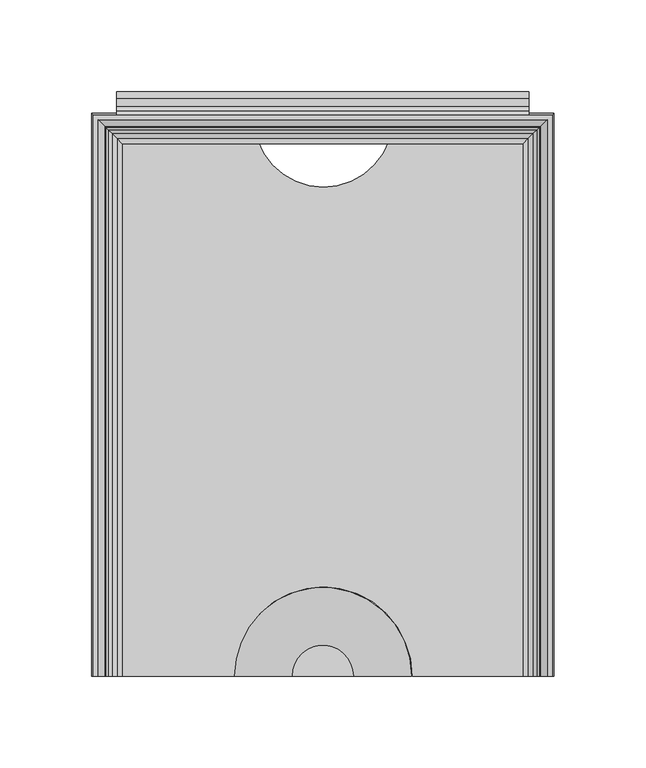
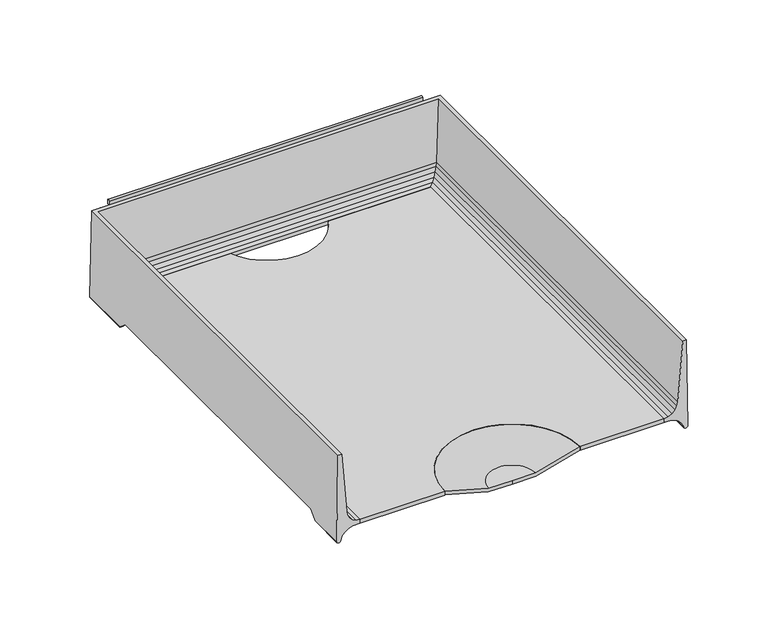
"""IFC4 building model written with IfcOpenShell, lengths in millimetres: furniture geometry."""

from ifc_helpers import new_model, si_unit, point, frame, frame_2d, origin, place, context, project, spatial, polyline, circle_curve, ellipse_curve, trimmed, segment, composite_curve, outline, extrude, source, transform, mapped, element, save
from ifc_brep_helpers import plane_surface, cylinder_surface, revolved_surface, advanced_brep


def furniture_df6c216b(model_context):
    return source(origin(), model_context, "Body", "SolidModel", [
        advanced_brep(
        [(126.0820502, -154.0206082, 683.9007489), (125.1325529, -154.0206082, 749.3001914), (122.4547921, -154.0206082, 749.3001914), (118.8379747, -154.0206082, 704.5131003), (118.4123648, -154.0206082, 701.7796052), (117.0774354, -154.0206082, 699.0785664), (114.9656457, -154.0206082, 696.9296015), (112.28832, -154.0206082, 695.5477261), (109.3133381, -154.0206082, 695.0712052), (109.3133381, -154.0206082, 692.2490971), (114.5666739, -154.0206082, 692.0560987), (117.605351, -154.0206082, 690.9997218), (120.2416, -154.0206082, 689.1558822), (122.2762142, -154.0206082, 686.6639079), (123.1625518, -154.0206082, 683.6206655), (126.0820502, -127.6379698, 683.9007489), (126.0026181, -121.5231874, 689.371872), (126.0026181, 109.0611937, 689.371872), (126.0820502, 115.1759816, 683.9007489), (126.0820502, 153.036442, 683.9007489), (125.1325529, 152.0869447, 749.3001914), (-125.1325529, 152.0869447, 749.3001914), (-125.1325529, -154.0206082, 749.3001914), (-122.4547921, -154.0206082, 749.3001914), (-122.4547921, 149.4091839, 749.3001914), (122.4547921, 149.4091839, 749.3001914), (118.8379747, 145.7923665, 704.5131003), (118.4123648, 145.3667566, 701.7796052), (117.0774354, 144.0318272, 699.0785664), (114.9656457, 141.9200375, 696.9296015), (112.28832, 139.2427118, 695.5477261), (109.3133381, 136.2677299, 695.0712052), (109.3133381, 136.2677299, 692.2490971), (114.5666739, 141.5210656, 692.0560987), (117.605351, 144.5597428, 690.9997218), (120.2416, 147.1959918, 689.1558822), (120.2416, 109.3025941, 689.1558822), (119.9327864, 109.0611937, 689.371872), (119.9327864, -121.5231874, 689.371872), (120.2416, -121.7645876, 689.1558822), (122.2762142, -124.5497344, 686.6639079), (122.2762142, 149.230606, 686.6639079), (122.2762142, 112.0877435, 686.6639079), (123.1625518, -127.9510041, 683.6206655), (123.1625518, 150.1169436, 683.6206655), (123.1625518, 115.4890162, 683.6206655), (-126.0820502, 153.036442, 683.9007489), (-118.8379747, 145.7923665, 704.5131003), (-118.4123648, 145.3667566, 701.7796052), (-117.0774354, 144.0318272, 699.0785664), (-114.9656457, 141.9200375, 696.9296015), (-112.28832, 139.2427118, 695.5477261), (-109.3133381, 136.2677299, 695.0712052), (-109.3133381, 136.2677299, 692.2490971), (-114.5666739, 141.5210656, 692.0560987), (-117.605351, 144.5597428, 690.9997218), (-120.2416, 147.1959918, 689.1558822), (-122.2762142, 149.230606, 686.6639079), (-123.1625518, 150.1169436, 683.6206655), (-126.0820502, -154.0206082, 683.9007489), (-123.1625518, -154.0206082, 683.6206655), (-122.2762142, -154.0206082, 686.6639079), (-120.2416, -154.0206082, 689.1558822), (-117.605351, -154.0206082, 690.9997218), (-114.5666739, -154.0206082, 692.0560987), (-109.3133381, -154.0206082, 692.2490971), (-109.3133381, -154.0206082, 695.0712052), (-112.28832, -154.0206082, 695.5477261), (-114.9656457, -154.0206082, 696.9296015), (-117.0774354, -154.0206082, 699.0785664), (-118.4123648, -154.0206082, 701.7796052), (-118.8379747, -154.0206082, 704.5131003), (-126.0820502, 115.1759816, 683.9007489), (-126.0026181, 109.0611937, 689.371872), (-126.0026181, -121.5231874, 689.371872), (-126.0820502, -127.6379698, 683.9007489), (-120.2416, -121.7645876, 689.1558822), (-119.9327864, -121.5231874, 689.371872), (-119.9327864, 109.0611937, 689.371872), (-120.2416, 109.3025941, 689.1558822), (-122.2762142, 112.0877435, 686.6639079), (-122.2762142, -124.5497344, 686.6639079), (-123.1625518, 115.4890162, 683.6206655), (-123.1625518, -127.9510041, 683.6206655)],
        [
            (0, 1),
            (1, 2),
            (2, 3),
            (3, 4),
            (4, 5),
            (5, 6),
            (6, 7),
            (7, 8),
            (8, 9),
            (9, 10),
            (10, 11),
            (11, 12),
            (12, 13),
            (13, 14),
            (14, 0, circle_curve(frame((124.5859452, -154.0206082, 684.1396685), z_axis=(0.0, -1.0, 0.0), x_axis=(-1.0, 0.0, 0.0)), 1.515062)),
            (0, 15),
            (15, 16),
            (16, 17),
            (17, 18),
            (18, 19),
            (19, 20),
            (20, 1),
            (20, 21),
            (21, 22),
            (22, 23),
            (23, 24),
            (24, 25),
            (25, 2),
            (25, 26),
            (26, 3),
            (26, 27),
            (27, 4),
            (27, 28),
            (28, 5),
            (28, 29),
            (29, 6),
            (29, 30),
            (30, 7),
            (30, 31),
            (31, 8),
            (31, 32),
            (32, 9),
            (32, 33),
            (33, 10),
            (33, 34),
            (34, 11),
            (34, 35),
            (35, 36),
            (36, 37),
            (37, 38),
            (38, 39),
            (39, 12),
            (39, 40),
            (40, 13),
            (35, 41),
            (41, 42),
            (42, 36),
            (40, 43),
            (43, 14),
            (41, 44),
            (44, 45),
            (45, 42),
            (43, 15, ellipse_curve(frame((124.5859452, -127.3709422, 684.1396685), z_axis=(0.0, -0.6667949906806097, 0.7452411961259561), x_axis=(0.0, -0.7452411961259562, -0.6667949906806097)), 2.2721556, 1.515062)),
            (44, 19, ellipse_curve(frame((124.5859452, 151.540337, 684.1396685), z_axis=(0.7071067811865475, -0.7071067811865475, 0.0), x_axis=(-0.7071067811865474, -0.7071067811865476, 0.0)), 2.1426212, 1.515062)),
            (18, 45, ellipse_curve(frame((124.5859452, 114.9089538, 684.1396685), z_axis=(0.0, 0.6667946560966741, 0.7452414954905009), x_axis=(0.0, -0.7452414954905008, 0.6667946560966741)), 2.2721567, 1.515062)),
            (19, 46),
            (46, 21),
            (24, 47),
            (47, 26),
            (47, 48),
            (48, 27),
            (48, 49),
            (49, 28),
            (49, 50),
            (50, 29),
            (50, 51),
            (51, 30),
            (51, 52),
            (52, 31),
            (52, 53),
            (53, 32),
            (53, 54),
            (54, 33),
            (54, 55),
            (55, 34),
            (55, 56),
            (56, 35),
            (56, 57),
            (57, 41),
            (57, 58),
            (58, 44),
            (58, 46, ellipse_curve(frame((-124.5859452, 151.540337, 684.1396685), z_axis=(0.7071067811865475, 0.7071067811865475, 0.0), x_axis=(0.7071067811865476, -0.7071067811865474, 0.0)), 2.1426212, 1.515062)),
            (22, 59),
            (59, 60, circle_curve(frame((-124.5859452, -154.0206082, 684.1396685), z_axis=(0.0, -1.0, 0.0), x_axis=(1.0, 0.0, 0.0)), 1.515062)),
            (60, 61),
            (61, 62),
            (62, 63),
            (63, 64),
            (64, 65),
            (65, 66),
            (66, 67),
            (67, 68),
            (68, 69),
            (69, 70),
            (70, 71),
            (71, 23),
            (46, 72),
            (72, 73),
            (73, 74),
            (74, 75),
            (75, 59),
            (71, 47),
            (70, 48),
            (69, 49),
            (68, 50),
            (67, 51),
            (66, 52),
            (65, 53),
            (64, 54),
            (63, 55),
            (62, 76),
            (76, 77),
            (77, 78),
            (78, 79),
            (79, 56),
            (79, 80),
            (80, 57),
            (61, 81),
            (81, 76),
            (80, 82),
            (82, 58),
            (60, 83),
            (83, 81),
            (82, 72, ellipse_curve(frame((-124.5859452, 114.9089538, 684.1396685), z_axis=(0.0, 0.6667946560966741, 0.7452414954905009), x_axis=(0.0, 0.7452414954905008, -0.6667946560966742)), 2.2721567, 1.515062)),
            (75, 83, ellipse_curve(frame((-124.5859452, -127.3709422, 684.1396685), z_axis=(0.0, -0.6667949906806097, 0.7452411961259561), x_axis=(0.0, 0.745241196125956, 0.6667949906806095)), 2.2721556, 1.515062)),
            (38, 16),
            (74, 77),
            (37, 17),
            (73, 78),
        ],
        [
            plane_surface(frame((127.0, -154.0206082, 682.625), z_axis=(0.0, -1.0, 0.0), x_axis=(0.0, 0.0, 1.0))),
            plane_surface(frame((126.0820502, -154.0206082, 683.9007489), z_axis=(0.9998946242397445, 0.0, 0.01451690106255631), x_axis=(0.0, 1.0, 0.0))),
            plane_surface(frame((125.1325529, -154.0206082, 749.3001914), z_axis=(0.0, 0.0, 1.0), x_axis=(0.0, 1.0, 0.0))),
            plane_surface(frame((122.4547921, -154.0206082, 749.3001914), z_axis=(-0.9967551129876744, 0.0, 0.08049375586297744), x_axis=(0.0, 1.0, 0.0))),
            plane_surface(frame((118.8379747, -154.0206082, 704.5131003), z_axis=(-0.9880945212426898, 0.0, 0.15384803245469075), x_axis=(0.0, 1.0, 0.0))),
            plane_surface(frame((118.4123648, -154.0206082, 701.7796052), z_axis=(-0.8964873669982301, 0.0, 0.44306929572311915), x_axis=(0.0, 1.0, 0.0))),
            plane_surface(frame((117.0774354, -154.0206082, 699.0785664), z_axis=(-0.7132491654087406, 0.0, 0.7009105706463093), x_axis=(0.0, 1.0, 0.0))),
            plane_surface(frame((114.9656457, -154.0206082, 696.9296015), z_axis=(-0.45865074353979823, 0.0, 0.8886166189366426), x_axis=(0.0, 1.0, 0.0))),
            plane_surface(frame((112.28832, -154.0206082, 695.5477261), z_axis=(-0.15816001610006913, 0.0, 0.987413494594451), x_axis=(0.0, 1.0, 0.0))),
            plane_surface(frame((109.3133381, -154.0206082, 695.0712052), z_axis=(-1.0, 0.0, 0.0), x_axis=(0.0, 1.0, 0.0))),
            plane_surface(frame((109.3133381, -154.0206082, 692.2490971), z_axis=(-0.036713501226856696, 0.0, -0.9993258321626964), x_axis=(0.0, 1.0, 0.0))),
            plane_surface(frame((114.5666739, -154.0206082, 692.0560987), z_axis=(-0.3283669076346, 0.0, -0.9445502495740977), x_axis=(0.0, 1.0, 0.0))),
            plane_surface(frame((117.605351, -154.0206082, 690.9997218), z_axis=(-0.5731421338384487, 0.0, -0.819455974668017), x_axis=(0.0, 1.0, 0.0))),
            plane_surface(frame((120.2416, -154.0206082, 689.1558822), z_axis=(-0.77460799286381, 0.0, -0.6324416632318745), x_axis=(0.0, 1.0, 0.0))),
            plane_surface(frame((122.2762142, -154.0206082, 686.6639079), z_axis=(-0.9601080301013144, 0.0, -0.2796293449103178), x_axis=(0.0, 1.0, 0.0))),
            cylinder_surface(frame((124.5859452, -154.0206082, 684.1396685), z_axis=(0.0, -1.0, 0.0), x_axis=(-1.0, 0.0, 0.0)), 1.515062),
            plane_surface(frame((126.0820502, 153.036442, 683.9007489), z_axis=(0.0, 0.9998946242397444, 0.01451690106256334), x_axis=(-1.0, 0.0, 0.0))),
            plane_surface(frame((122.4547921, 149.4091839, 749.3001914), z_axis=(0.0, -0.9967551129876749, 0.08049375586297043), x_axis=(-1.0, 0.0, 0.0))),
            plane_surface(frame((118.8379747, 145.7923665, 704.5131003), z_axis=(0.0, -0.9880945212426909, 0.15384803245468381), x_axis=(-1.0, 0.0, 0.0))),
            plane_surface(frame((118.4123648, 145.3667566, 701.7796052), z_axis=(0.0, -0.8964873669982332, 0.4430692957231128), x_axis=(-1.0, 0.0, 0.0))),
            plane_surface(frame((117.0774354, 144.0318272, 699.0785664), z_axis=(0.0, -0.7132491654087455, 0.7009105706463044), x_axis=(-1.0, 0.0, 0.0))),
            plane_surface(frame((114.9656457, 141.9200375, 696.9296015), z_axis=(0.0, -0.4586507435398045, 0.8886166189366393), x_axis=(-1.0, 0.0, 0.0))),
            plane_surface(frame((112.28832, 139.2427118, 695.5477261), z_axis=(0.0, -0.15816001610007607, 0.9874134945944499), x_axis=(-1.0, 0.0, 0.0))),
            plane_surface(frame((109.3133381, 136.2677299, 695.0712052), z_axis=(0.0, -1.0, 0.0), x_axis=(-1.0, 0.0, 0.0))),
            plane_surface(frame((109.3133381, 136.2677299, 692.2490971), z_axis=(0.0, -0.03671350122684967, -0.9993258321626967), x_axis=(-1.0, 0.0, 0.0))),
            plane_surface(frame((114.5666739, 141.5210656, 692.0560987), z_axis=(0.0, -0.32836690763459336, -0.9445502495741), x_axis=(-1.0, 0.0, 0.0))),
            plane_surface(frame((117.605351, 144.5597428, 690.9997218), z_axis=(0.0, -0.5731421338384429, -0.819455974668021), x_axis=(-1.0, 0.0, 0.0))),
            plane_surface(frame((120.2416, 147.1959918, 689.1558822), z_axis=(0.0, -0.7746079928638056, -0.6324416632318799), x_axis=(-1.0, 0.0, 0.0))),
            plane_surface(frame((122.2762142, 149.230606, 686.6639079), z_axis=(0.0, -0.9601080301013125, -0.27962934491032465), x_axis=(-1.0, 0.0, 0.0))),
            cylinder_surface(frame((127.0, 151.540337, 684.1396685), z_axis=(1.0, 0.0, 0.0), x_axis=(0.0, -1.0, 0.0)), 1.515062),
            plane_surface(frame((-127.0, -154.0206082, 682.625), z_axis=(0.0, -1.0, 0.0), x_axis=(0.0, 0.0, 1.0))),
            plane_surface(frame((-126.0820502, 153.036442, 683.9007489), z_axis=(-0.9998946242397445, 0.0, 0.01451690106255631), x_axis=(0.0, -1.0, 0.0))),
            plane_surface(frame((-122.4547921, 149.4091839, 749.3001914), z_axis=(0.9967551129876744, 0.0, 0.08049375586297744), x_axis=(0.0, -1.0, 0.0))),
            plane_surface(frame((-118.8379747, 145.7923665, 704.5131003), z_axis=(0.9880945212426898, 0.0, 0.15384803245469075), x_axis=(0.0, -1.0, 0.0))),
            plane_surface(frame((-118.4123648, 145.3667566, 701.7796052), z_axis=(0.8964873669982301, 0.0, 0.44306929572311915), x_axis=(0.0, -1.0, 0.0))),
            plane_surface(frame((-117.0774354, 144.0318272, 699.0785664), z_axis=(0.7132491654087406, 0.0, 0.7009105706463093), x_axis=(0.0, -1.0, 0.0))),
            plane_surface(frame((-114.9656457, 141.9200375, 696.9296015), z_axis=(0.45865074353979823, 0.0, 0.8886166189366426), x_axis=(0.0, -1.0, 0.0))),
            plane_surface(frame((-112.28832, 139.2427118, 695.5477261), z_axis=(0.15816001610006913, 0.0, 0.987413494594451), x_axis=(0.0, -1.0, 0.0))),
            plane_surface(frame((-109.3133381, 136.2677299, 695.0712052), z_axis=(1.0, 0.0, 0.0), x_axis=(0.0, -1.0, 0.0))),
            plane_surface(frame((-109.3133381, 136.2677299, 692.2490971), z_axis=(0.036713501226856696, 0.0, -0.9993258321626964), x_axis=(0.0, -1.0, 0.0))),
            plane_surface(frame((-114.5666739, 141.5210656, 692.0560987), z_axis=(0.3283669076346, 0.0, -0.9445502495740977), x_axis=(0.0, -1.0, 0.0))),
            plane_surface(frame((-117.605351, 144.5597428, 690.9997218), z_axis=(0.5731421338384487, 0.0, -0.819455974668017), x_axis=(0.0, -1.0, 0.0))),
            plane_surface(frame((-120.2416, 147.1959918, 689.1558822), z_axis=(0.77460799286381, 0.0, -0.6324416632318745), x_axis=(0.0, -1.0, 0.0))),
            plane_surface(frame((-122.2762142, 149.230606, 686.6639079), z_axis=(0.9601080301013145, 0.0, -0.2796293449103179), x_axis=(0.0, -1.0, 0.0))),
            cylinder_surface(frame((-124.5859452, 153.9543918, 684.1396685), z_axis=(0.0, 1.0, 0.0), x_axis=(1.0, 0.0, 0.0)), 1.515062),
            plane_surface(frame((-127.0, -130.1695728, 681.6356296), z_axis=(0.0, 0.6667949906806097, -0.7452411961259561), x_axis=(1.0, 0.0, 0.0))),
            plane_surface(frame((-127.0, -121.5231874, 689.371872), z_axis=(0.0, 0.0, -1.0), x_axis=(1.0, 0.0, 0.0))),
            plane_surface(frame((-127.0, 109.0611937, 689.371872), z_axis=(0.0, -0.6667946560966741, -0.7452414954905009), x_axis=(1.0, 0.0, 0.0))),
        ],
        [
            (0, [[1, 2, 3, 4, 5, 6, 7, 8, 9, 10, 11, 12, 13, 14, 15]]),
            (1, [[-1, 16, 17, 18, 19, 20, 21, 22]]),
            (2, [[-2, -22, 23, 24, 25, 26, 27, 28]]),
            (3, [[-3, -28, 29, 30]]),
            (4, [[-4, -30, 31, 32]]),
            (5, [[-5, -32, 33, 34]]),
            (6, [[-6, -34, 35, 36]]),
            (7, [[-7, -36, 37, 38]]),
            (8, [[-8, -38, 39, 40]]),
            (9, [[-9, -40, 41, 42]]),
            (10, [[-10, -42, 43, 44]]),
            (11, [[-11, -44, 45, 46]]),
            (12, [[-12, -46, 47, 48, 49, 50, 51, 52]]),
            (13, [[-13, -52, 53, 54]]),
            (13, [[55, 56, 57, -48]]),
            (14, [[-14, -54, 58, 59]]),
            (14, [[60, 61, 62, -56]]),
            (15, [[-15, -59, 63, -16]]),
            (15, [[64, -20, 65, -61]]),
            (16, [[-21, 66, 67, -23]]),
            (17, [[-27, 68, 69, -29]]),
            (18, [[-31, -69, 70, 71]]),
            (19, [[-33, -71, 72, 73]]),
            (20, [[-35, -73, 74, 75]]),
            (21, [[-37, -75, 76, 77]]),
            (22, [[-39, -77, 78, 79]]),
            (23, [[-41, -79, 80, 81]]),
            (24, [[-43, -81, 82, 83]]),
            (25, [[-45, -83, 84, 85]]),
            (26, [[-47, -85, 86, 87]]),
            (27, [[-55, -87, 88, 89]]),
            (28, [[-60, -89, 90, 91]]),
            (29, [[-64, -91, 92, -66]]),
            (30, [[-25, 93, 94, 95, 96, 97, 98, 99, 100, 101, 102, 103, 104, 105, 106]]),
            (31, [[-24, -67, 107, 108, 109, 110, 111, -93]]),
            (32, [[-26, -106, 112, -68]]),
            (33, [[-70, -112, -105, 113]]),
            (34, [[-72, -113, -104, 114]]),
            (35, [[-74, -114, -103, 115]]),
            (36, [[-76, -115, -102, 116]]),
            (37, [[-78, -116, -101, 117]]),
            (38, [[-80, -117, -100, 118]]),
            (39, [[-82, -118, -99, 119]]),
            (40, [[-84, -119, -98, 120]]),
            (41, [[-86, -120, -97, 121, 122, 123, 124, 125]]),
            (42, [[-88, -125, 126, 127]]),
            (42, [[-96, 128, 129, -121]]),
            (43, [[-90, -127, 130, 131]]),
            (43, [[-95, 132, 133, -128]]),
            (44, [[-92, -131, 134, -107]]),
            (44, [[-94, -111, 135, -132]]),
            (45, [[136, -17, -63, -58, -53, -51]]),
            (45, [[137, -122, -129, -133, -135, -110]]),
            (46, [[-136, -50, 138, -18]]),
            (46, [[-137, -109, 139, -123]]),
            (47, [[-138, -49, -57, -62, -65, -19]]),
            (47, [[-139, -108, -134, -130, -126, -124]]),
        ],
    ),
        extrude(outline(composite_curve([segment(polyline([(-109.3647805, 138.2769393), (-35.6610422, 138.2769393)]), True, "CONTINUOUS"), segment(trimmed(circle_curve(frame_2d((0.3369133, 150.6584166)), 38.0677525), [point((-35.6610422, 138.2769393))], [point((36.3348688, 138.2769393))], True, "CARTESIAN"), True, "CONTINUOUS"), segment(polyline([(36.3348688, 138.2769393), (109.6504969, 138.2769393), (109.6504969, -153.9875), (48.9112184, -153.9875)]), True, "CONTINUOUS"), segment(trimmed(circle_curve(frame_2d((0.2842795, -153.9323196)), 48.6269702), [point((48.9112184, -153.9875))], [point((-48.3426595, -153.9875))], True, "CARTESIAN"), True, "CONTINUOUS"), segment(polyline([(-48.3426595, -153.9875), (-109.3647805, -153.9875), (-109.3647805, 138.2769393)]), True, "CONTINUOUS")], self_intersect=False)), frame((0.0, 0.0, 692.2314677), z_axis=(0.0, 0.0, 1.0), x_axis=(1.0, 0.0, 0.0)), (0.0, 0.0, 1.0), 2.8395461),
        extrude(outline(composite_curve([segment(trimmed(circle_curve(frame_2d((162.7186949, 733.4707343)), 1.9049988), [point((164.6236937, 733.4707343))], [point((160.8136962, 733.4707343))], False, "CARTESIAN"), True, "CONTINUOUS"), segment(polyline([(160.8136962, 733.4707343), (160.8136962, 736.8997311), (160.0516969, 737.6617303), (156.4380325, 737.6617303), (152.1427596, 735.3143331), (152.1427596, 743.8191285), (156.4380325, 741.4717312), (160.8136928, 741.4717312)]), True, "CONTINUOUS"), segment(trimmed(circle_curve(frame_2d((160.8136928, 737.6617303)), 3.8100009), [point((160.8136928, 741.4717312))], [point((164.6236937, 737.6617303))], False, "CARTESIAN"), True, "CONTINUOUS"), segment(polyline([(164.6236937, 737.6617303), (164.6236937, 733.4707343)]), True, "CONTINUOUS")], self_intersect=False)), frame((-112.5397809, 0.0, 0.0), z_axis=(1.0, 0.0, 0.0), x_axis=(0.0, 1.0, 0.0)), (0.0, 0.0, 1.0), 225.0795617),
        advanced_brep(
        [(-16.8929028, -153.9875, 686.196875), (-48.4614622, -153.9875, 695.1045432), (-48.4614622, -153.9875, 692.5130018), (-16.9249292, -153.9875, 683.6143704), (0.0, -153.9875, 683.6143704), (0.0, -153.9875, 686.196875), (16.8929028, -153.9875, 686.196875), (16.9249292, -153.9875, 683.6143704), (48.4614622, -153.9875, 692.5130018), (48.4614622, -153.9875, 695.1045432)],
        [
            (0, 1),
            (1, 2),
            (2, 3),
            (3, 4),
            (4, 5),
            (5, 0),
            (6, 5),
            (4, 7),
            (7, 8),
            (8, 9),
            (9, 6),
            (9, 1, circle_curve(frame((0.0, -153.9875, 695.1045432), z_axis=(0.0, 0.0, 1.0), x_axis=(-1.0, 0.0, 0.0)), 48.4614622)),
            (0, 6, circle_curve(frame((0.0, -153.9875, 686.196875), z_axis=(0.0, 0.0, -1.0), x_axis=(-1.0, 0.0, 0.0)), 16.8929028)),
            (8, 2, circle_curve(frame((0.0, -153.9875, 692.5130018), z_axis=(0.0, 0.0, 1.0), x_axis=(-1.0, 0.0, 0.0)), 48.4614622)),
            (7, 3, circle_curve(frame((0.0, -153.9875, 683.6143704), z_axis=(0.0, 0.0, 1.0), x_axis=(-1.0, 0.0, 0.0)), 16.9249292)),
        ],
        [
            plane_surface(frame((0.0, -153.9875, 682.625), z_axis=(0.0, -1.0, 0.0), x_axis=(-1.0, 0.0, 0.0))),
            plane_surface(frame((0.0, -153.9875, 682.625), z_axis=(0.0, -1.0, 0.0), x_axis=(1.0, 0.0, 0.0))),
            revolved_surface(polyline([(-48.4614622, -153.9875, 695.1045432), (-16.8929028, -153.9875, 686.196875)]), (0.0, -153.9875, 682.625), (0.0, 0.0, 1.0)),
            cylinder_surface(frame((0.0, -153.9875, 682.625), z_axis=(0.0, 0.0, 1.0), x_axis=(-1.0, 0.0, 0.0)), 48.4614622),
            revolved_surface(polyline([(-16.9249292, -153.9875, 683.6143704), (-48.4614622, -153.9875, 692.5130018)]), (0.0, -153.9875, 682.625), (0.0, 0.0, 1.0)),
            plane_surface(frame((0.0, -153.9875, 683.6143704), z_axis=(0.0, 0.0, -1.0), x_axis=(-1.0, 0.0, 0.0))),
            plane_surface(frame((0.0, -153.9875, 686.196875), z_axis=(0.0, 0.0, 1.0), x_axis=(-1.0, 0.0, 0.0))),
        ],
        [
            (0, [[1, 2, 3, 4, 5, 6]]),
            (1, [[7, -5, 8, 9, 10, 11]]),
            (2, [[12, -1, 13, -11]]),
            (3, [[14, -2, -12, -10]]),
            (4, [[15, -3, -14, -9]]),
            (5, [[-4, -15, -8]]),
            (6, [[-13, -6, -7]]),
        ],
    ),
        extrude(outline(composite_curve([segment(polyline([(153.9875, 749.3), (152.1427596, 749.3), (152.1427596, 752.1315333)]), True, "CONTINUOUS"), segment(trimmed(circle_curve(frame_2d((153.0651298, 751.8262665)), 0.9715733), [point((152.1427596, 752.1315333))], [point((153.9875, 752.1315333))], False, "CARTESIAN"), True, "CONTINUOUS"), segment(polyline([(153.9875, 752.1315333), (153.9875, 749.3)]), True, "CONTINUOUS")], self_intersect=False)), frame((-112.5397809, 0.0, 0.0), z_axis=(1.0, 0.0, 0.0), x_axis=(0.0, 1.0, 0.0)), (0.0, 0.0, 1.0), 225.0795617),
    ])


if __name__ == "__main__":
    model = new_model("IFC4")
    model_context = context("Model", 3, world=origin())
    ifc_project = project(units=[si_unit("LENGTHUNIT", "METRE", prefix="MILLI")], contexts=[model_context])
    site = spatial("IfcSite", under=ifc_project)
    building = spatial("IfcBuilding", under=site)
    placement = place(None, origin())
    furniture_shape = furniture_df6c216b(model_context)
    element("IfcFurniture", 1, ObjectType="HermanMiller_ThrivePortfolio_Y7216_PaperTray : 3\"H x 12\"D x 10\"W", at=placement, inside=building, context=model_context, shape_type="MappedRepresentation", body=[
        mapped(furniture_shape, transform((0.0, 0.0, 0.0), x_axis=(1.0, 0.0, 0.0), y_axis=(0.0, 1.0, 0.0), z_axis=(0.0, 0.0, 1.0))),
    ])
    save(model, "model.ifc")
